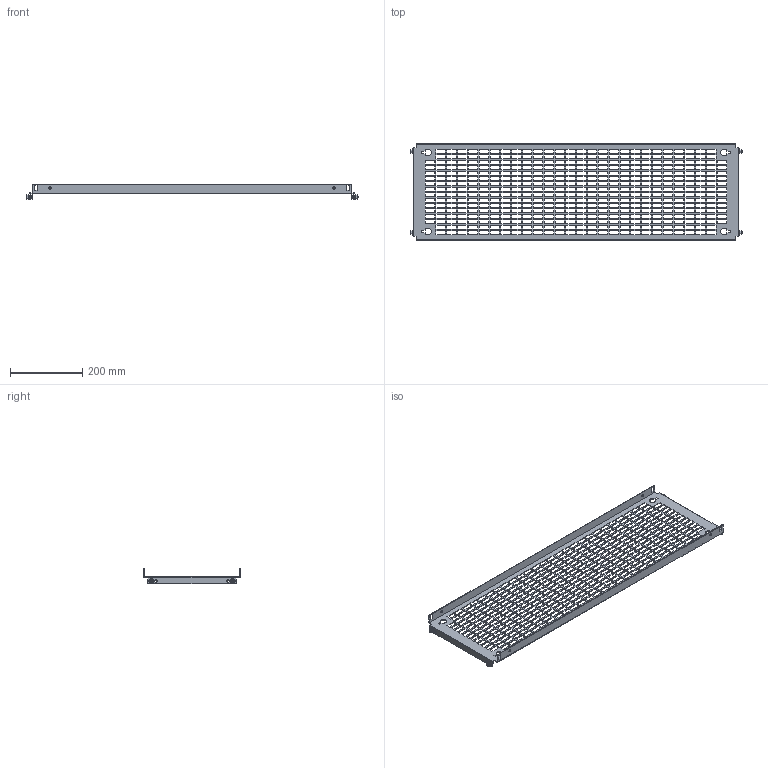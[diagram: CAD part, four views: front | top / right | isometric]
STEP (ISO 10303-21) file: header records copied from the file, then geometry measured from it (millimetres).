
FILE_DESCRIPTION(('Open CASCADE Model'),'2;1');
FILE_NAME('Open CASCADE Shape Model','2025-02-19T16:49:09',('Author'),( 'Open CASCADE'),'Open CASCADE STEP processor 7.8','Open CASCADE 7.8' ,'Unknown');
FILE_SCHEMA(('AUTOMOTIVE_DESIGN { 1 0 10303 214 1 1 1 1 }'));
Length unit declared in the file: millimetre
Products named in the file (4): Compound1; Solid1; Solid2; Solid3
Assembly tree (9 placements, depth 2):
  Compound1
    Solid1
    Solid2  x4
    Solid3  x4
Bounding box: 920 x 269 x 43 mm (x, y, z)
Volume: 334974.2 mm3; surface area: 405737.8 mm2
Topology: 9 solids, 9 shells, 2050 faces, 5978 edges, 3950 vertices
Faces by surface type: plane 1894, cone 68, bspline 48, cylinder 28, torus 12
Full cylindrical faces by diameter (mm): 5 x4, 6 x8, 7 x12
Entity records: 64544 total; most frequent: CARTESIAN_POINT 11887, ORIENTED_EDGE 11278, DIRECTION 9408, EDGE_CURVE 5639, LINE 5488, VECTOR 5488, VERTEX_POINT 3752, FACE_BOUND 2817
